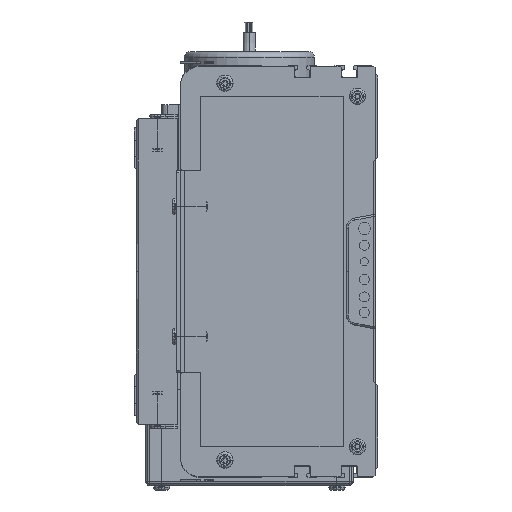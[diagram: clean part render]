
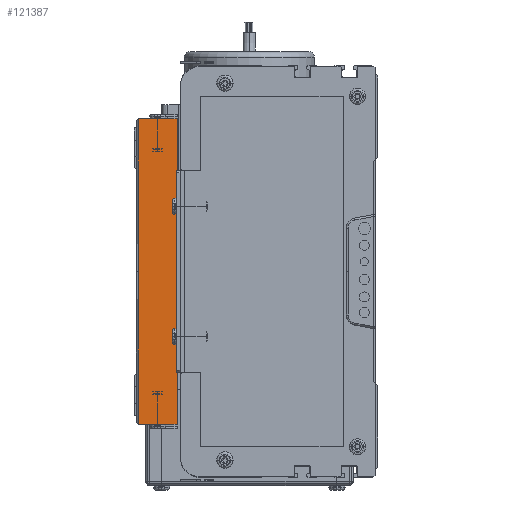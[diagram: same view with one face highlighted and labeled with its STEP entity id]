
A CAD part, left-side view. The second image highlights one B-rep face of the part: STEP entity #121387.
In plain terms, the highlighted planar face has unit normal (-1, 0, 0).
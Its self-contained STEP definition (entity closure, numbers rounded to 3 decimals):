
#61870 = VECTOR ( 'NONE', #62181, 1000. ) ;
#62030 = CARTESIAN_POINT ( 'NONE',  ( 0., 0., 75. ) ) ;
#62068 = CARTESIAN_POINT ( 'NONE',  ( 0., 0., 0. ) ) ;
#62070 = LINE ( 'NONE', #62068, #61870 ) ;
#62181 = DIRECTION ( 'NONE',  ( 0., 0., 1. ) ) ;
#62272 = CARTESIAN_POINT ( 'NONE',  ( 0., 0., -75. ) ) ;
#62593 = CARTESIAN_POINT ( 'NONE',  ( 0., 19., 75. ) ) ;
#63036 = DIRECTION ( 'NONE',  ( 0., -1., 0. ) ) ;
#63037 = VECTOR ( 'NONE', #63036, 1000. ) ;
#63038 = CARTESIAN_POINT ( 'NONE',  ( 0., 20., 75. ) ) ;
#63052 = LINE ( 'NONE', #63038, #63037 ) ;
#64065 = FACE_OUTER_BOUND ( 'NONE', #121206, .T. ) ;
#64150 = CARTESIAN_POINT ( 'NONE',  ( 0., 20., -75. ) ) ;
#64151 = LINE ( 'NONE', #64150, #64274 ) ;
#64273 = DIRECTION ( 'NONE',  ( 0., -1., 0. ) ) ;
#64274 = VECTOR ( 'NONE', #64273, 1000. ) ;
#64418 = CARTESIAN_POINT ( 'NONE',  ( 0., 19., -75. ) ) ;
#64447 = DIRECTION ( 'NONE',  ( 0., 0., -1. ) ) ;
#64539 = VECTOR ( 'NONE', #64447, 1000. ) ;
#64540 = CARTESIAN_POINT ( 'NONE',  ( 0., 19., 0. ) ) ;
#64541 = LINE ( 'NONE', #64540, #64539 ) ;
#64791 = LINE ( 'NONE', #64853, #64852 ) ;
#64834 = CARTESIAN_POINT ( 'NONE',  ( 0., 19., 0. ) ) ;
#64851 = DIRECTION ( 'NONE',  ( 0., 0., -1. ) ) ;
#64852 = VECTOR ( 'NONE', #64851, 1000. ) ;
#64853 = CARTESIAN_POINT ( 'NONE',  ( 0., 19., 0. ) ) ;
#90088 = CARTESIAN_POINT ( 'NONE',  ( 0., 20., 0. ) ) ;
#90096 = DIRECTION ( 'NONE',  ( 0., 0., -1. ) ) ;
#90097 = DIRECTION ( 'NONE',  ( 1., 0., 0. ) ) ;
#96909 = AXIS2_PLACEMENT_3D ( 'NONE', #90088, #90097, #90096 ) ;
#96910 = PLANE ( 'NONE',  #96909 ) ;
#119948 = EDGE_CURVE ( 'NONE', #120092, #119957, #62070, .T. ) ;
#119957 = VERTEX_POINT ( 'NONE', #62030 ) ;
#120092 = VERTEX_POINT ( 'NONE', #62272 ) ;
#120388 = VERTEX_POINT ( 'NONE', #62593 ) ;
#120648 = EDGE_CURVE ( 'NONE', #120388, #119957, #63052, .T. ) ;
#121206 = EDGE_LOOP ( 'NONE', ( #121856, #121943, #122095, #121500, #121743 ) ) ;
#121387 = ADVANCED_FACE ( 'NONE', ( #64065 ), #96910, .F. ) ;
#121496 = EDGE_CURVE ( 'NONE', #121634, #120092, #64151, .T. ) ;
#121500 = ORIENTED_EDGE ( 'NONE', *, *, #121496, .T. ) ;
#121634 = VERTEX_POINT ( 'NONE', #64418 ) ;
#121712 = EDGE_CURVE ( 'NONE', #120388, #122127, #64541, .T. ) ;
#121743 = ORIENTED_EDGE ( 'NONE', *, *, #119948, .T. ) ;
#121856 = ORIENTED_EDGE ( 'NONE', *, *, #120648, .F. ) ;
#121943 = ORIENTED_EDGE ( 'NONE', *, *, #121712, .T. ) ;
#122095 = ORIENTED_EDGE ( 'NONE', *, *, #122117, .T. ) ;
#122117 = EDGE_CURVE ( 'NONE', #122127, #121634, #64791, .T. ) ;
#122127 = VERTEX_POINT ( 'NONE', #64834 ) ;
